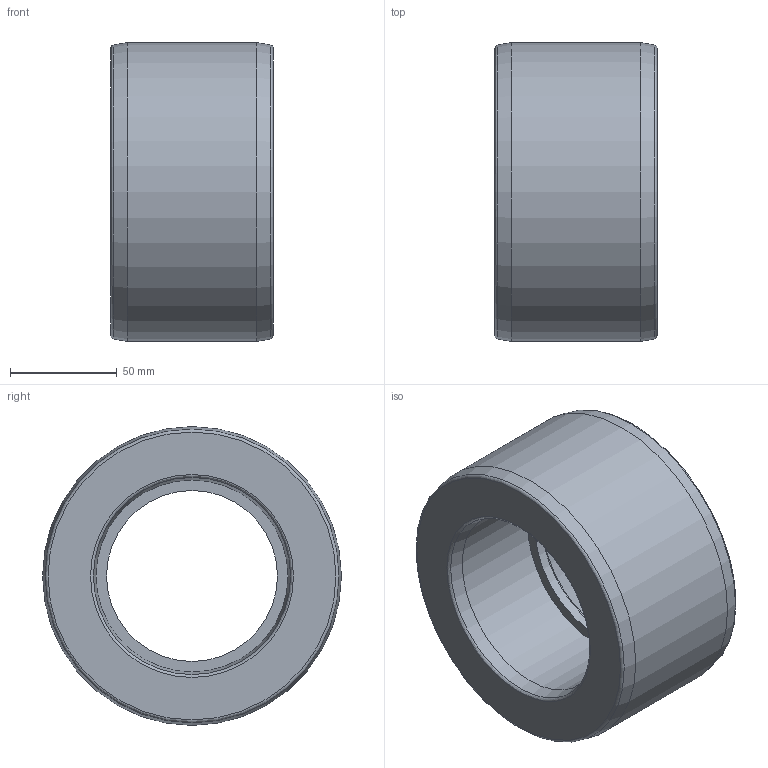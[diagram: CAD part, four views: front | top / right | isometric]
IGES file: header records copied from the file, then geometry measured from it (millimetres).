
Global section: file name: 050900140090.ipt; native system: Autodesk Inventor 2015; preprocessor: unknown; author: KIM; date: 20171207.165134; units: millimetre
Bounding box: 76 x 140 x 140 mm (x, y, z)
Volume: 679833.7 mm3; surface area: 71087.4 mm2
Topology: 1 solids, 1 shells, 15 faces, 43 edges, 31 vertices
Faces by surface type: revolution 9, plane 3, cone 2, cylinder 1
Full cylindrical faces by diameter (mm): 140 x1
